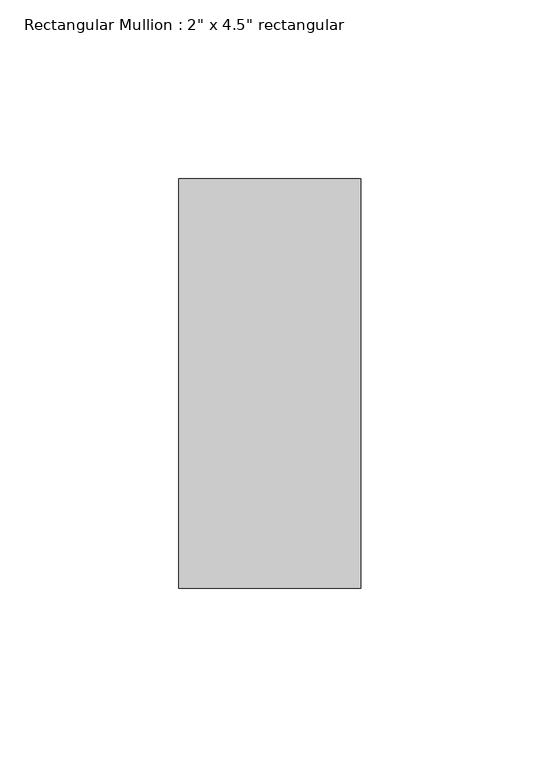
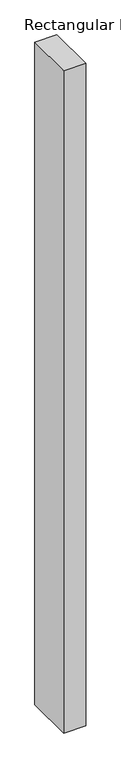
"""IFC4 building model written with IfcOpenShell, lengths in millimetres: member geometry."""

from ifc_helpers import new_model, si_unit, frame, origin, place, context, project, spatial, polyline, outline, extrude, source, transform, mapped, element, save


def member_7ca0f77f(model_context):
    return source(origin(), model_context, "Body", "SweptSolid", [
        extrude(outline(polyline([(0.0, 57.15), (0.0, -57.15), (-50.8, -57.15), (-50.8, 57.15), (0.0, 57.15)])), frame((0.0, 0.0, -1613.2534544), z_axis=(0.0, 0.0, 1.0), x_axis=(1.0, 0.0, 0.0)), (0.0, 0.0, 1.0), 1613.2534544),
    ])


if __name__ == "__main__":
    model = new_model("IFC4")
    model_context = context("Model", 3, world=origin())
    ifc_project = project(units=[si_unit("LENGTHUNIT", "METRE", prefix="MILLI")], contexts=[model_context])
    site = spatial("IfcSite", under=ifc_project)
    building = spatial("IfcBuilding", under=site)
    placement = place(None, origin())
    member_shape = member_7ca0f77f(model_context)
    element("IfcMember", 1, ObjectType="Rectangular Mullion : 2\" x 4.5\" rectangular", at=placement, inside=building, context=model_context, shape_type="MappedRepresentation", body=[
        mapped(member_shape, transform((0.0, 0.0, 0.0), x_axis=(1.0, 0.0, 0.0), y_axis=(0.0, 1.0, 0.0), z_axis=(0.0, 0.0, 1.0))),
    ])
    save(model, "model.ifc")
